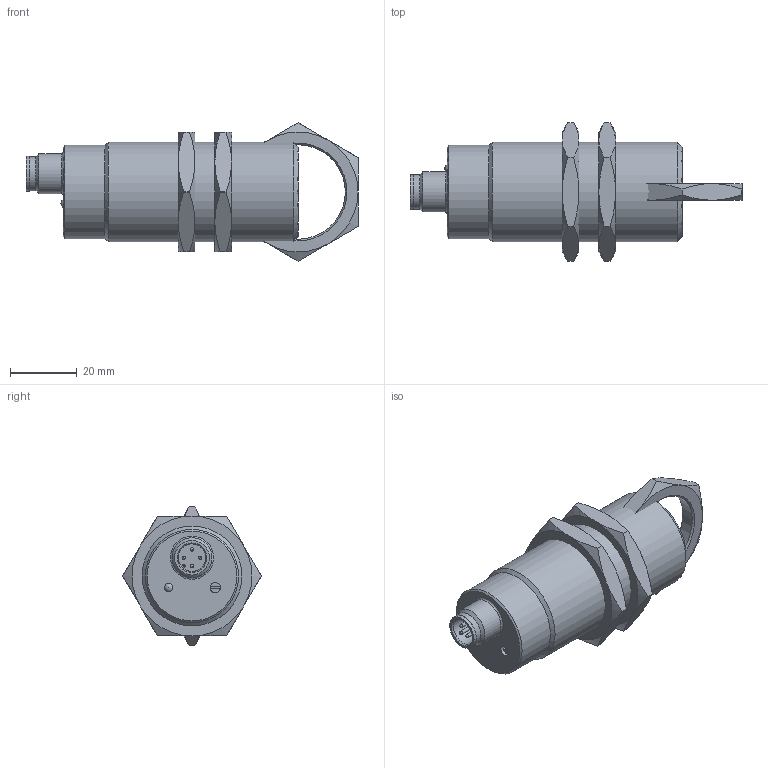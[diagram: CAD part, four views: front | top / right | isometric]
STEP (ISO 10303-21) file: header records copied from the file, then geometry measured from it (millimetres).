
FILE_DESCRIPTION( ( 'Unknown' ), '1' );
FILE_NAME( '//baumerholding.org/frauenfeld/bereich/BECH/Services/me_CAD/Solid Edge/Models/Dokumentationen/Kapazitiv/CFAx 30/Vereinfachte Modelle/Neutralformate/CFAM_30_Pot_S14.stp', 'Unknown', ( 'Unknown' ), ( 'Unknown' ), 'XStep 1.0', 'Unknown', ' ' );
FILE_SCHEMA( ( 'CONFIG_CONTROL_DESIGN' ) );
Length unit declared in the file: millimetre
Products named in the file (3): Assem1; 101477; CFAM_30_Pot_S14_oA
Bounding box: 99.74 x 41.56 x 41.56 mm (x, y, z)
Volume: 105518.1 mm3; surface area: 22769.9 mm2
Topology: 5 solids, 5 shells, 163 faces, 389 edges, 242 vertices
Faces by surface type: cone 52, cylinder 49, plane 48, sphere 12, torus 2
Full cylindrical faces by diameter (mm): 1 x8, 3.1 x2, 8.3 x2, 10.3 x2, 10.4 x2, 12 x2, 27 x2, 28 x2, 28.376 x3, 30 x2
Entity records: 1914 total; most frequent: CARTESIAN_POINT 445, DIRECTION 294, ORIENTED_EDGE 230, AXIS2_PLACEMENT_3D 133, EDGE_CURVE 115, EDGE_LOOP 99, VERTEX_POINT 82, FACE_OUTER_BOUND 81
